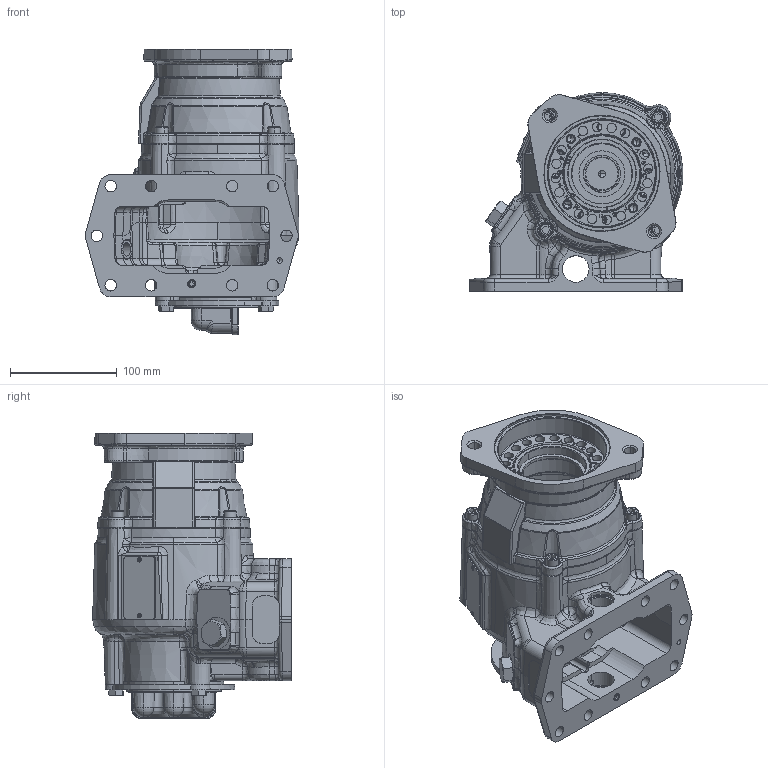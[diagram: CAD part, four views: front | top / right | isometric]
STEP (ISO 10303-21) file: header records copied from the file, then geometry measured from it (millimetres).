
FILE_DESCRIPTION (( 'STEP AP203' ), '1' );
FILE_NAME ('A30-A10XX-MX1PSPX.STEP', '2023-03-30T18:54:58', ( '' ), ( '' ), 'SwSTEP 2.0', 'SolidWorks 2021', '' );
FILE_SCHEMA (( 'CONFIG_CONTROL_DESIGN' ));
Products named in the file (8): 19T3314_RearCover_HexHeadCapScrew_19T33134; RemoteMountRearCover; 19T36588_19T36588; A30-A10XX-MX1PSPX; 14T65650; 15T65391DB3; 01T43462_1Arrangement; 15T64348_DIECAST DESIGN
Assembly tree (12 placements, depth 2):
  A30-A10XX-MX1PSPX
    01T43462_1Arrangement
    14T65650
    15T65391DB3
    19T36588_19T36588  x4
    RemoteMountRearCover
    15T64348_DIECAST DESIGN
    19T3314_RearCover_HexHeadCapScrew_19T33134  x3
Bounding box: 200.33 x 186.36 x 267.67 mm (x, y, z)
Volume: 624155.4 mm3; surface area: 416753.1 mm2
Topology: 11 solids, 24 shells, 2767 faces, 6867 edges, 4205 vertices
Faces by surface type: plane 851, bspline 828, cylinder 580, cone 338, torus 158, sphere 12
Entity records: 125548 total; most frequent: CARTESIAN_POINT 66997, ORIENTED_EDGE 13054, DIRECTION 10375, EDGE_CURVE 6536, VERTEX_POINT 4062, AXIS2_PLACEMENT_3D 3825, EDGE_LOOP 2929, LINE 2725
